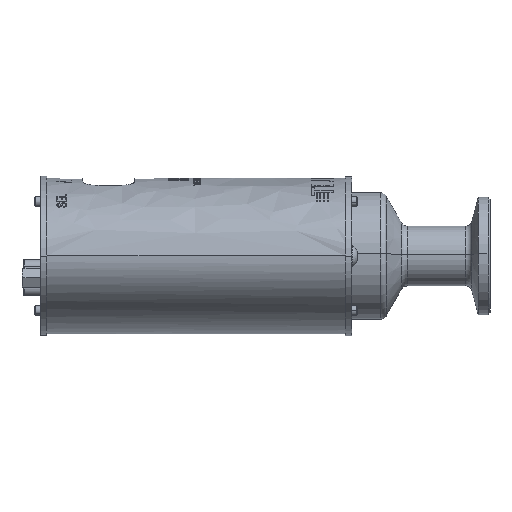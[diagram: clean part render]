
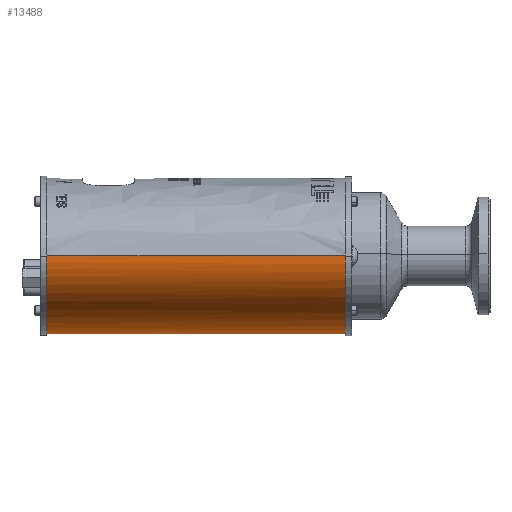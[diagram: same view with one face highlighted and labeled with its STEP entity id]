
A CAD part, left-side view. The second image highlights one B-rep face of the part: STEP entity #13488.
In plain terms, the highlighted free-form (B-spline) face has degree [3, 1] with [4, 2] control points.
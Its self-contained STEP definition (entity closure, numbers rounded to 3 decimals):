
#337 = CARTESIAN_POINT ( 'NONE',  ( 65.51, 81.574, 13.906 ) ) ;
#1202 = CARTESIAN_POINT ( 'NONE',  ( 65.51, 195.874, 53.58 ) ) ;
#2103 = CARTESIAN_POINT ( 'NONE',  ( 0.435, 81.574, 53.58 ) ) ;
#5290 = EDGE_CURVE ( 'NONE', #9132, #34490, #8585, .T. ) ;
#6137 = CARTESIAN_POINT ( 'NONE',  ( 65.51, 5.374, 53.58 ) ) ;
#7064 = ORIENTED_EDGE ( 'NONE', *, *, #5290, .F. ) ;
#7099 = ORIENTED_EDGE ( 'NONE', *, *, #17512, .F. ) ;
#7117 = CARTESIAN_POINT ( 'NONE',  ( 0.435, 81.574, 53.58 ) ) ;
#7137 =( BOUNDED_CURVE ( )  B_SPLINE_CURVE ( 3, ( #29809, #26218, #29407, #2103 ),
 .UNSPECIFIED., .F., .F. ) 
 B_SPLINE_CURVE_WITH_KNOTS ( ( 4, 4 ),
 ( 3.142, 6.283 ),
 .UNSPECIFIED. ) 
 CURVE ( )  GEOMETRIC_REPRESENTATION_ITEM ( )  RATIONAL_B_SPLINE_CURVE ( ( 1., 0.333, 0.333, 1. ) ) 
 REPRESENTATION_ITEM ( '' )  );
#8585 = LINE ( 'NONE', #13122, #23053 ) ;
#9132 = VERTEX_POINT ( 'NONE', #7117 ) ;
#9576 = CARTESIAN_POINT ( 'NONE',  ( 65.51, 5.374, 53.58 ) ) ;
#9978 = DIRECTION ( 'NONE',  ( 0., -1., 0. ) ) ;
#11185 = FACE_OUTER_BOUND ( 'NONE', #21355, .T. ) ;
#11769 = CARTESIAN_POINT ( 'NONE',  ( 0.435, 81.574, 53.58 ) ) ;
#11961 = CARTESIAN_POINT ( 'NONE',  ( 0.435, 5.374, 13.906 ) ) ;
#13122 = CARTESIAN_POINT ( 'NONE',  ( 0.435, 195.874, 53.58 ) ) ;
#13488 = ADVANCED_FACE ( 'Defeatured_2_0', ( #11185 ), #26410, .F. ) ;
#14925 = CARTESIAN_POINT ( 'NONE',  ( 65.51, 5.374, 53.58 ) ) ;
#15124 = CARTESIAN_POINT ( 'NONE',  ( 0.435, 5.374, 13.906 ) ) ;
#16334 = DIRECTION ( 'NONE',  ( 0., -1., 0. ) ) ;
#17512 = EDGE_CURVE ( 'NONE', #34889, #9132, #7137, .T. ) ;
#18081 = CARTESIAN_POINT ( 'NONE',  ( 65.51, 81.574, 53.58 ) ) ;
#20106 = ORIENTED_EDGE ( 'NONE', *, *, #28941, .F. ) ;
#21355 = EDGE_LOOP ( 'NONE', ( #7099, #37381, #20106, #7064 ) ) ;
#23053 = VECTOR ( 'NONE', #9978, 1000. ) ;
#24483 = VECTOR ( 'NONE', #16334, 1000. ) ;
#24667 = CARTESIAN_POINT ( 'NONE',  ( 0.435, 81.574, 13.906 ) ) ;
#26218 = CARTESIAN_POINT ( 'NONE',  ( 65.51, 81.574, 13.906 ) ) ;
#26410 =( BOUNDED_SURFACE ( )  B_SPLINE_SURFACE ( 3, 1, ( 
 ( #18081, #9576 ),
 ( #337, #30246 ),
 ( #24667, #15124 ),
 ( #11769, #27077 ) ),
 .UNSPECIFIED., .F., .F., .F. ) 
 B_SPLINE_SURFACE_WITH_KNOTS ( ( 4, 4 ),
 ( 2, 2 ),
 ( 0., 1. ),
 ( 0., 1. ),
 .UNSPECIFIED. ) 
 GEOMETRIC_REPRESENTATION_ITEM ( )  RATIONAL_B_SPLINE_SURFACE ( (
 ( 1., 1.),
 ( 0.333, 0.333),
 ( 0.333, 0.333),
 ( 1., 1.) ) ) 
 REPRESENTATION_ITEM ( '' )  SURFACE ( )  );
#26666 = CARTESIAN_POINT ( 'NONE',  ( 65.51, 5.374, 13.906 ) ) ;
#27058 = CARTESIAN_POINT ( 'NONE',  ( 0.435, 5.374, 53.58 ) ) ;
#27077 = CARTESIAN_POINT ( 'NONE',  ( 0.435, 5.374, 53.58 ) ) ;
#28695 = LINE ( 'NONE', #1202, #24483 ) ;
#28941 = EDGE_CURVE ( 'NONE', #34490, #34439, #29386, .T. ) ;
#29386 =( BOUNDED_CURVE ( )  B_SPLINE_CURVE ( 3, ( #27058, #11961, #26666, #6137 ),
 .UNSPECIFIED., .F., .F. ) 
 B_SPLINE_CURVE_WITH_KNOTS ( ( 4, 4 ),
 ( 0., 3.142 ),
 .UNSPECIFIED. ) 
 CURVE ( )  GEOMETRIC_REPRESENTATION_ITEM ( )  RATIONAL_B_SPLINE_CURVE ( ( 1., 0.333, 0.333, 1. ) ) 
 REPRESENTATION_ITEM ( '' )  );
#29407 = CARTESIAN_POINT ( 'NONE',  ( 0.435, 81.574, 13.906 ) ) ;
#29809 = CARTESIAN_POINT ( 'NONE',  ( 65.51, 81.574, 53.58 ) ) ;
#30246 = CARTESIAN_POINT ( 'NONE',  ( 65.51, 5.374, 13.906 ) ) ;
#30517 = EDGE_CURVE ( 'NONE', #34889, #34439, #28695, .T. ) ;
#34439 = VERTEX_POINT ( 'NONE', #14925 ) ;
#34490 = VERTEX_POINT ( 'NONE', #39181 ) ;
#34889 = VERTEX_POINT ( 'NONE', #35871 ) ;
#35871 = CARTESIAN_POINT ( 'NONE',  ( 65.51, 81.574, 53.58 ) ) ;
#37381 = ORIENTED_EDGE ( 'NONE', *, *, #30517, .T. ) ;
#39181 = CARTESIAN_POINT ( 'NONE',  ( 0.435, 5.374, 53.58 ) ) ;
